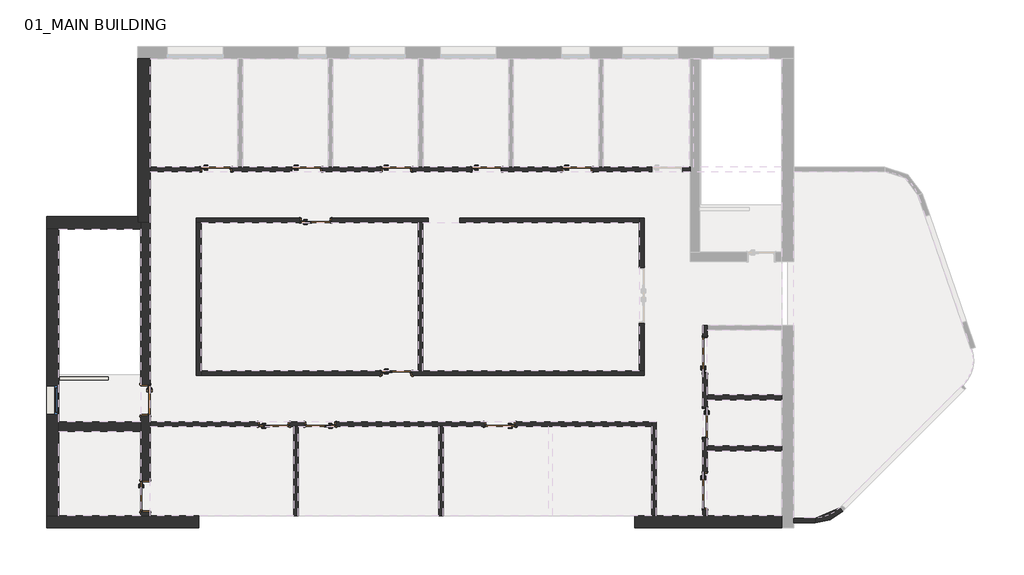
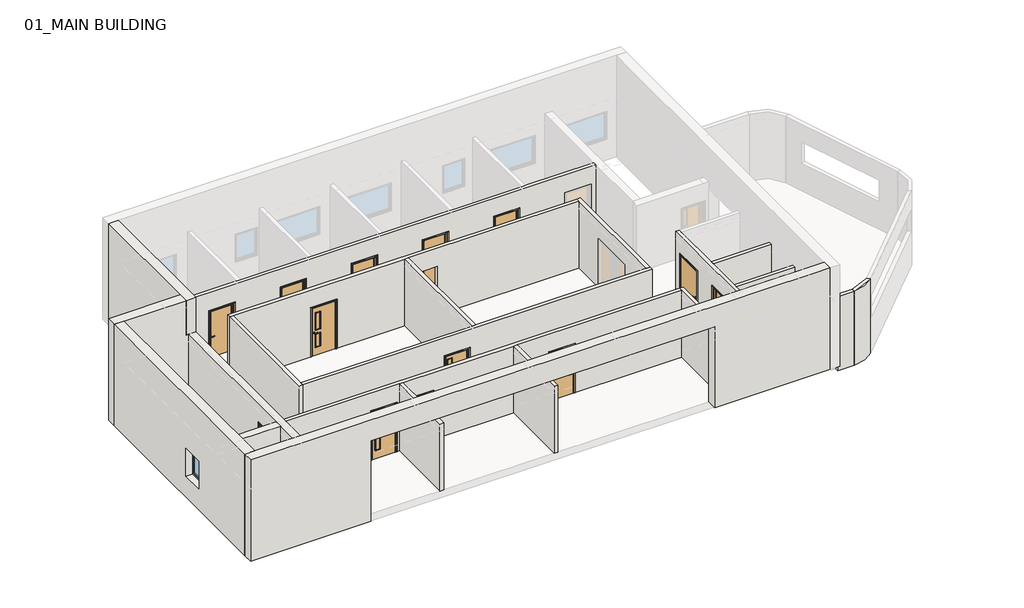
# One storey, part 1 of 2: 22 walls, 15 doors, 1 window.
"""IFC4 building model written with IfcOpenShell, lengths in millimetres."""

from ifc_helpers import new_model, si_unit, point, frame, frame_2d, origin, place, context, project, spatial, polyline, circle_curve, trimmed, segment, composite_curve, outline, extrude, faceted_brep, transform, mapped, element, save
from components import doors_intsgl_1_1010x2110mm_12a6edaf, doors_intsgl_1_1010x2110mm_5517da8e, doors_intsgl_1_1010x2110mm_5eebe40c, doors_intsgl_1_1200x2110mm_e831e5cc, doors_intsgl_1_1200x2110mm_07b1b6db, doors_intsgl_3_1010x2110mm_4cc0f6b2, doors_intsgl_3_1010x2110mm_0dcaffd3, windows_concept_plain_sgl_910x1210mm_ef0b7ad2

model = new_model("IFC4")

# Units and contexts
model_context = context("Model", 3, world=origin())
ifc_project = project(units=[si_unit("LENGTHUNIT", "METRE", prefix="MILLI")], contexts=[model_context])

# Site, building, storey
site = spatial("IfcSite", under=ifc_project)
building = spatial("IfcBuilding", under=site)
storey = spatial("IfcBuildingStorey", under=building, Name="01_MAIN BUILDING", Elevation=4500.0)

# Doors
placement = place(None, origin())
doors_intsgl_1_1010x2110mm_shape = doors_intsgl_1_1010x2110mm_12a6edaf(model_context)
element("IfcDoor", 1, ObjectType="Doors_IntSgl_1 : 1010x2110mm", at=placement, inside=storey, context=model_context, shape_type="MappedRepresentation", body=[
    mapped(doors_intsgl_1_1010x2110mm_shape, transform((427458.8921169, -385124.0026386, 4500.0), x_axis=(1.0, 0.0, 0.0), y_axis=(0.0, 1.0, 0.0), z_axis=(0.0, 0.0, 1.0))),
])
element("IfcDoor", 2, ObjectType="Doors_IntSgl_1 : 1010x2110mm", at=placement, inside=storey, context=model_context, shape_type="MappedRepresentation", body=[
    mapped(doors_intsgl_1_1010x2110mm_shape, transform((430375.4635455, -385124.0026386, 4500.0), x_axis=(1.0, 0.0, 0.0), y_axis=(0.0, 1.0, 0.0), z_axis=(0.0, 0.0, 1.0))),
])
element("IfcDoor", 3, ObjectType="Doors_IntSgl_1 : 1010x2110mm", at=placement, inside=storey, context=model_context, shape_type="MappedRepresentation", body=[
    mapped(doors_intsgl_1_1010x2110mm_shape, transform((433292.034974, -385124.0026386, 4500.0), x_axis=(1.0, 0.0, 0.0), y_axis=(0.0, 1.0, 0.0), z_axis=(0.0, 0.0, 1.0))),
])
element("IfcDoor", 4, ObjectType="Doors_IntSgl_1 : 1010x2110mm", at=placement, inside=storey, context=model_context, shape_type="MappedRepresentation", body=[
    mapped(doors_intsgl_1_1010x2110mm_shape, transform((436208.6064026, -385124.0026386, 4500.0), x_axis=(1.0, 0.0, 0.0), y_axis=(0.0, 1.0, 0.0), z_axis=(0.0, 0.0, 1.0))),
])
element("IfcDoor", 5, ObjectType="Doors_IntSgl_1 : 1010x2110mm", at=placement, inside=storey, context=model_context, shape_type="MappedRepresentation", body=[
    mapped(doors_intsgl_1_1010x2110mm_shape, transform((439125.1778312, -385124.0026386, 4500.0), x_axis=(1.0, 0.0, 0.0), y_axis=(0.0, 1.0, 0.0), z_axis=(0.0, 0.0, 1.0))),
])
element("IfcDoor", 6, ObjectType="Doors_IntSgl_1 : 1010x2110mm", at=placement, inside=storey, context=model_context, shape_type="MappedRepresentation", body=[
    mapped(doors_intsgl_1_1010x2110mm_shape, transform((443263.3206883, -393328.0026386, 4500.0), x_axis=(0.0, -1.0, 0.0), y_axis=(1.0, 0.0, 0.0), z_axis=(0.0, 0.0, 1.0))),
])
element("IfcDoor", 7, ObjectType="Doors_IntSgl_1 : 1010x2110mm", at=placement, inside=storey, context=model_context, shape_type="MappedRepresentation", body=[
    mapped(doors_intsgl_1_1010x2110mm_shape, transform((436633.3206883, -393374.0026386, 4500.0), x_axis=(-1.0, 0.0, 0.0), y_axis=(0.0, -1.0, 0.0), z_axis=(0.0, 0.0, 1.0))),
])
doors_intsgl_1_1010x2110mm_2_shape = doors_intsgl_1_1010x2110mm_5517da8e(model_context)
element("IfcDoor", 8, ObjectType="Doors_IntSgl_1 : 1010x2110mm", at=placement, inside=storey, context=model_context, shape_type="MappedRepresentation", body=[
    mapped(doors_intsgl_1_1010x2110mm_2_shape, transform((425167.3206883, -392594.0026386, 4500.0), x_axis=(0.0, -1.0, 0.0), y_axis=(1.0, 0.0, 0.0), z_axis=(0.0, 0.0, 1.0))),
])
doors_intsgl_1_1010x2110mm_3_shape = doors_intsgl_1_1010x2110mm_5eebe40c(model_context)
element("IfcDoor", 9, ObjectType="Doors_IntSgl_1 : 1010x2110mm", at=placement, inside=storey, context=model_context, shape_type="MappedRepresentation", body=[
    mapped(doors_intsgl_1_1010x2110mm_3_shape, transform((425167.3206883, -395704.0026386, 4500.0), x_axis=(0.0, -1.0, 0.0), y_axis=(1.0, 0.0, 0.0), z_axis=(0.0, 0.0, 1.0))),
])
doors_intsgl_1_1200x2110mm_shape = doors_intsgl_1_1200x2110mm_e831e5cc(model_context)
element("IfcDoor", 10, ObjectType="Doors_IntSgl_1 : 1200x2110mm", at=placement, inside=storey, context=model_context, shape_type="MappedRepresentation", body=[
    mapped(doors_intsgl_1_1200x2110mm_shape, transform((443263.3206883, -391128.0026386, 4500.0), x_axis=(0.0, 1.0, 0.0), y_axis=(-1.0, 0.0, 0.0), z_axis=(0.0, 0.0, 1.0))),
])
doors_intsgl_1_1200x2110mm_2_shape = doors_intsgl_1_1200x2110mm_07b1b6db(model_context)
element("IfcDoor", 11, ObjectType="Doors_IntSgl_1 : 1200x2110mm", at=placement, inside=storey, context=model_context, shape_type="MappedRepresentation", body=[
    mapped(doors_intsgl_1_1200x2110mm_2_shape, transform((443263.3206883, -395528.0026386, 4500.0), x_axis=(0.0, -1.0, 0.0), y_axis=(1.0, 0.0, 0.0), z_axis=(0.0, 0.0, 1.0))),
])
doors_intsgl_3_1010x2110mm_shape = doors_intsgl_3_1010x2110mm_4cc0f6b2(model_context)
element("IfcDoor", 12, ObjectType="Doors_IntSgl_3 : 1010x2110mm", at=placement, inside=storey, context=model_context, shape_type="MappedRepresentation", body=[
    mapped(doors_intsgl_3_1010x2110mm_shape, transform((430824.5429107, -393374.0026386, 4500.0), x_axis=(-1.0, 0.0, 0.0), y_axis=(0.0, -1.0, 0.0), z_axis=(0.0, 0.0, 1.0))),
])
doors_intsgl_3_1010x2110mm_2_shape = doors_intsgl_3_1010x2110mm_0dcaffd3(model_context)
element("IfcDoor", 13, ObjectType="Doors_IntSgl_3 : 1010x2110mm", at=placement, inside=storey, context=model_context, shape_type="MappedRepresentation", body=[
    mapped(doors_intsgl_3_1010x2110mm_2_shape, transform((429323.3206883, -393374.0026386, 4500.0), x_axis=(1.0, 0.0, 0.0), y_axis=(0.0, 1.0, 0.0), z_axis=(0.0, 0.0, 1.0))),
])
element("IfcDoor", 14, ObjectType="Doors_IntSgl_3 : 1010x2110mm", at=placement, inside=storey, context=model_context, shape_type="MappedRepresentation", body=[
    mapped(doors_intsgl_3_1010x2110mm_2_shape, transform((430677.3206883, -386774.0026386, 4500.0), x_axis=(1.0, 0.0, 0.0), y_axis=(0.0, 1.0, 0.0), z_axis=(0.0, 0.0, 1.0))),
])
element("IfcDoor", 15, ObjectType="Doors_IntSgl_3 : 1010x2110mm", at=placement, inside=storey, context=model_context, shape_type="MappedRepresentation", body=[
    mapped(doors_intsgl_3_1010x2110mm_shape, transform((433287.3206883, -391724.0026386, 4500.0), x_axis=(1.0, 0.0, 0.0), y_axis=(0.0, 1.0, 0.0), z_axis=(0.0, 0.0, 1.0))),
])

# Walls
element("IfcWall", 16, ObjectType="Wall_Exterior_WSUK", at=placement, inside=storey, context=model_context, shape_type="Brep", body=[
    faceted_brep([(421974.3206883, -396328.0026386, 8900.0), (422376.3206883, -396328.0026386, 8900.0), (445738.3206883, -396328.0026386, 8900.0), (445738.3206883, -396328.0026386, 4500.0), (443338.3206883, -396328.0026386, 4500.0), (443188.3206883, -396328.0026386, 4500.0), (441688.3206883, -396328.0026386, 4500.0), (441538.3206883, -396328.0026386, 4500.0), (440997.3206883, -396328.0026386, 4500.0), (440997.3206883, -396328.0026386, 8000.0), (426897.3206883, -396328.0026386, 8000.0), (426897.3206883, -396328.0026386, 4500.0), (425322.3206883, -396328.0026386, 4500.0), (425012.3206883, -396328.0026386, 4500.0), (422376.3206883, -396328.0026386, 4500.0), (421974.3206883, -396328.0026386, 4500.0), (445738.3206883, -396730.0026386, 8900.0), (421974.3206883, -396730.0026386, 8900.0), (421974.3206883, -396730.0026386, 4500.0), (426897.3206883, -396730.0026386, 4500.0), (426897.3206883, -396730.0026386, 8000.0), (440997.3206883, -396730.0026386, 8000.0), (440997.3206883, -396730.0026386, 4500.0), (445738.3206883, -396730.0026386, 4500.0)], [[[0, 1, 2, 3, 4, 5, 6, 7, 8, 9, 10, 11, 12, 13, 14, 15]], [[16, 17, 18, 19, 20, 21, 22, 23]], [[3, 23, 22, 8, 7, 6, 5, 4]], [[18, 15, 14, 13, 12, 11, 19]], [[2, 1, 0, 17, 16]], [[2, 16, 23, 3]], [[0, 15, 18, 17]], [[21, 9, 8, 22]], [[9, 21, 20, 10]], [[10, 20, 19, 11]]]),
])
element("IfcWall", 17, ObjectType="Wall_Exterior_WSUK", at=placement, inside=storey, context=model_context, shape_type="Brep", body=[
    faceted_brep([(424920.3206883, -381550.0026386, 8900.0), (424920.3206883, -381550.0026386, 4500.0), (424920.3206883, -386647.0026386, 4500.0), (424920.3206883, -386848.0026386, 4500.0), (424920.3206883, -386848.0026386, 7400.0), (424920.3206883, -387049.0026386, 7400.0), (424920.3206883, -387049.0026386, 8900.0), (424920.3206883, -386647.0026386, 8900.0), (425322.3206883, -381550.0026386, 4500.0), (425322.3206883, -381550.0026386, 8900.0), (425322.3206883, -387049.0026386, 8900.0), (425322.3206883, -387049.0026386, 7400.0), (425322.3206883, -386848.0026386, 7400.0), (425322.3206883, -386848.0026386, 4500.0), (425322.3206883, -385199.0026386, 4500.0), (425322.3206883, -385049.0026386, 4500.0), (425012.3206883, -381550.0026386, 4500.0), (425012.3206883, -386848.0026386, 4500.0), (425012.3206883, -386848.0026386, 7400.0), (425012.3206883, -387049.0026386, 7400.0)], [[[0, 1, 2, 3, 4, 5, 6, 7]], [[8, 9, 10, 11, 12, 13, 14, 15]], [[3, 2, 1, 16, 8, 15, 14, 13, 17]], [[0, 7, 6, 10, 9]], [[4, 3, 17, 13, 12, 18]], [[11, 19, 5, 4, 18, 12]], [[6, 5, 19, 11, 10]], [[0, 9, 8, 16, 1]]]),
])
element("IfcWall", 18, ObjectType="Wall_Exterior_WSUK", at=placement, inside=storey, context=model_context, shape_type="Brep", body=[
    faceted_brep([(424920.3206883, -386647.0026386, 4500.0), (421974.3206883, -386647.0026386, 4500.0), (421974.3206883, -386647.0026386, 8900.0), (424920.3206883, -386647.0026386, 8900.0), (424920.3206883, -386647.0026386, 7400.0), (425012.3206883, -387049.0026386, 4500.0), (425012.3206883, -387049.0026386, 7400.0), (424920.3206883, -387049.0026386, 7400.0), (424920.3206883, -387049.0026386, 8900.0), (422376.3206883, -387049.0026386, 8900.0), (421974.3206883, -387049.0026386, 8900.0), (421974.3206883, -387049.0026386, 4500.0), (422376.3206883, -387049.0026386, 4500.0), (424920.3206883, -386848.0026386, 4500.0), (425012.3206883, -386848.0026386, 4500.0), (424920.3206883, -386848.0026386, 7400.0), (425012.3206883, -386848.0026386, 7400.0)], [[[0, 1, 2, 3, 4]], [[5, 6, 7, 8, 9, 10, 11, 12]], [[1, 0, 13, 14, 5, 12, 11]], [[3, 2, 10, 9, 8]], [[2, 1, 11, 10]], [[15, 7, 6, 16]], [[0, 4, 15, 13]], [[15, 16, 14, 13]], [[16, 6, 5, 14]], [[4, 3, 8, 7, 15]]]),
])
element("IfcWall", 19, ObjectType="Wall_Exterior_WSUK", at=placement, inside=storey, context=model_context, shape_type="Brep", body=[
    faceted_brep([(421974.3206883, -387049.0026386, 4500.0), (421974.3206883, -396328.0026386, 4500.0), (421974.3206883, -396328.0026386, 8900.0), (421974.3206883, -387049.0026386, 8900.0), (421974.3206883, -392139.0026386, 6610.0), (421974.3206883, -393049.0026386, 6610.0), (421974.3206883, -393049.0026386, 5400.0), (421974.3206883, -392139.0026386, 5400.0), (422376.3206883, -387049.0026386, 4500.0), (422376.3206883, -387049.0026386, 8900.0), (422376.3206883, -396328.0026386, 8900.0), (422376.3206883, -396328.0026386, 4500.0), (422376.3206883, -393609.0026386, 4500.0), (422376.3206883, -393299.0026386, 4500.0), (422376.3206883, -392139.0026386, 6610.0), (422376.3206883, -392139.0026386, 5400.0), (422376.3206883, -393049.0026386, 5400.0), (422376.3206883, -393049.0026386, 6610.0)], [[[0, 1, 2, 3], [4, 5, 6, 7]], [[8, 9, 10, 11, 12, 13], [14, 15, 16, 17]], [[1, 0, 8, 13, 12, 11]], [[3, 2, 10, 9]], [[0, 3, 9, 8]], [[15, 14, 4, 7]], [[16, 15, 7, 6]], [[17, 16, 6, 5]], [[14, 17, 5, 4]], [[2, 1, 11, 10]]]),
])
element("IfcWall", 20, ObjectType="Wall_Interior_WSUK", at=placement, inside=storey, context=model_context, shape_type="Brep", body=[
    faceted_brep([(442792.3206883, -385199.0026386, 7400.0), (425322.3206883, -385199.0026386, 7400.0), (425322.3206883, -385199.0026386, 4500.0), (426953.8921169, -385199.0026386, 4500.0), (426953.8921169, -385199.0026386, 6610.0), (427963.8921169, -385199.0026386, 6610.0), (427963.8921169, -385199.0026386, 4500.0), (429870.4635455, -385199.0026386, 4500.0), (429870.4635455, -385199.0026386, 6610.0), (430880.4635455, -385199.0026386, 6610.0), (430880.4635455, -385199.0026386, 4500.0), (432787.034974, -385199.0026386, 4500.0), (432787.034974, -385199.0026386, 6610.0), (433797.034974, -385199.0026386, 6610.0), (433797.034974, -385199.0026386, 4500.0), (435703.6064026, -385199.0026386, 4500.0), (435703.6064026, -385199.0026386, 6610.0), (436713.6064026, -385199.0026386, 6610.0), (436713.6064026, -385199.0026386, 4500.0), (438620.1778312, -385199.0026386, 4500.0), (438620.1778312, -385199.0026386, 6610.0), (439630.1778312, -385199.0026386, 6610.0), (439630.1778312, -385199.0026386, 4500.0), (441536.7492598, -385199.0026386, 4500.0), (441536.7492598, -385199.0026386, 6610.0), (442546.7492598, -385199.0026386, 6610.0), (442546.7492598, -385199.0026386, 4500.0), (442792.3206883, -385199.0026386, 4500.0), (425322.3206883, -385049.0026386, 7400.0), (428163.8921169, -385049.0026386, 7400.0), (428313.8921169, -385049.0026386, 7400.0), (431080.4635455, -385049.0026386, 7400.0), (431230.4635455, -385049.0026386, 7400.0), (433997.034974, -385049.0026386, 7400.0), (434147.034974, -385049.0026386, 7400.0), (436913.6064026, -385049.0026386, 7400.0), (437063.6064026, -385049.0026386, 7400.0), (439830.1778312, -385049.0026386, 7400.0), (439980.1778312, -385049.0026386, 7400.0), (442792.3206883, -385049.0026386, 7400.0), (442792.3206883, -385049.0026386, 4500.0), (442546.7492598, -385049.0026386, 4500.0), (442546.7492598, -385049.0026386, 6610.0), (441536.7492598, -385049.0026386, 6610.0), (441536.7492598, -385049.0026386, 4500.0), (439980.1778312, -385049.0026386, 4500.0), (439830.1778312, -385049.0026386, 4500.0), (439630.1778312, -385049.0026386, 4500.0), (439630.1778312, -385049.0026386, 6610.0), (438620.1778312, -385049.0026386, 6610.0), (438620.1778312, -385049.0026386, 4500.0), (437063.6064026, -385049.0026386, 4500.0), (436913.6064026, -385049.0026386, 4500.0), (436713.6064026, -385049.0026386, 4500.0), (436713.6064026, -385049.0026386, 6610.0), (435703.6064026, -385049.0026386, 6610.0), (435703.6064026, -385049.0026386, 4500.0), (434147.034974, -385049.0026386, 4500.0), (433997.034974, -385049.0026386, 4500.0), (433797.034974, -385049.0026386, 4500.0), (433797.034974, -385049.0026386, 6610.0), (432787.034974, -385049.0026386, 6610.0), (432787.034974, -385049.0026386, 4500.0), (431230.4635455, -385049.0026386, 4500.0), (431080.4635455, -385049.0026386, 4500.0), (430880.4635455, -385049.0026386, 4500.0), (430880.4635455, -385049.0026386, 6610.0), (429870.4635455, -385049.0026386, 6610.0), (429870.4635455, -385049.0026386, 4500.0), (428313.8921169, -385049.0026386, 4500.0), (428163.8921169, -385049.0026386, 4500.0), (427963.8921169, -385049.0026386, 4500.0), (427963.8921169, -385049.0026386, 6610.0), (426953.8921169, -385049.0026386, 6610.0), (426953.8921169, -385049.0026386, 4500.0), (425322.3206883, -385049.0026386, 4500.0)], [[[0, 1, 2, 3, 4, 5, 6, 7, 8, 9, 10, 11, 12, 13, 14, 15, 16, 17, 18, 19, 20, 21, 22, 23, 24, 25, 26, 27]], [[28, 29, 30, 31, 32, 33, 34, 35, 36, 37, 38, 39, 40, 41, 42, 43, 44, 45, 46, 47, 48, 49, 50, 51, 52, 53, 54, 55, 56, 57, 58, 59, 60, 61, 62, 63, 64, 65, 66, 67, 68, 69, 70, 71, 72, 73, 74, 75]], [[3, 2, 75, 74]], [[6, 71, 70, 69, 68, 7]], [[10, 65, 64, 63, 62, 11]], [[14, 59, 58, 57, 56, 15]], [[18, 53, 52, 51, 50, 19]], [[22, 47, 46, 45, 44, 23]], [[40, 27, 26, 41]], [[1, 0, 39, 38, 37, 36, 35, 34, 33, 32, 31, 30, 29, 28]], [[5, 72, 71, 6]], [[72, 5, 4, 73]], [[73, 4, 3, 74]], [[9, 66, 65, 10]], [[66, 9, 8, 67]], [[67, 8, 7, 68]], [[13, 60, 59, 14]], [[60, 13, 12, 61]], [[61, 12, 11, 62]], [[17, 54, 53, 18]], [[54, 17, 16, 55]], [[55, 16, 15, 56]], [[21, 48, 47, 22]], [[48, 21, 20, 49]], [[49, 20, 19, 50]], [[2, 1, 28, 75]], [[25, 42, 41, 26]], [[42, 25, 24, 43]], [[43, 24, 23, 44]], [[0, 27, 40, 39]]]),
])
element("IfcWall", 21, ObjectType="Wall_Interior_WSUK", at=placement, inside=storey, context=model_context, shape_type="Brep", body=[
    faceted_brep([(443188.3206883, -396328.0026386, 7400.0), (443188.3206883, -390178.0026386, 7400.0), (443188.3206883, -390178.0026386, 4500.0), (443188.3206883, -390528.0026386, 4500.0), (443188.3206883, -390528.0026386, 6610.0), (443188.3206883, -391728.0026386, 6610.0), (443188.3206883, -391728.0026386, 4500.0), (443188.3206883, -392823.0026386, 4500.0), (443188.3206883, -392823.0026386, 6610.0), (443188.3206883, -393833.0026386, 6610.0), (443188.3206883, -393833.0026386, 4500.0), (443188.3206883, -394928.0026386, 4500.0), (443188.3206883, -394928.0026386, 6610.0), (443188.3206883, -396128.0026386, 6610.0), (443188.3206883, -396128.0026386, 4500.0), (443188.3206883, -396328.0026386, 4500.0), (443338.3206883, -390178.0026386, 7400.0), (443338.3206883, -390328.0026386, 7400.0), (443338.3206883, -392428.0026386, 7400.0), (443338.3206883, -392578.0026386, 7400.0), (443338.3206883, -394078.0026386, 7400.0), (443338.3206883, -394228.0026386, 7400.0), (443338.3206883, -396328.0026386, 7400.0), (443338.3206883, -396328.0026386, 4500.0), (443338.3206883, -396128.0026386, 4500.0), (443338.3206883, -396128.0026386, 6610.0), (443338.3206883, -394928.0026386, 6610.0), (443338.3206883, -394928.0026386, 4500.0), (443338.3206883, -394228.0026386, 4500.0), (443338.3206883, -394078.0026386, 4500.0), (443338.3206883, -393833.0026386, 4500.0), (443338.3206883, -393833.0026386, 6610.0), (443338.3206883, -392823.0026386, 6610.0), (443338.3206883, -392823.0026386, 4500.0), (443338.3206883, -392578.0026386, 4500.0), (443338.3206883, -392428.0026386, 4500.0), (443338.3206883, -391728.0026386, 4500.0), (443338.3206883, -391728.0026386, 6610.0), (443338.3206883, -390528.0026386, 6610.0), (443338.3206883, -390528.0026386, 4500.0), (443338.3206883, -390328.0026386, 4500.0), (443338.3206883, -390178.0026386, 4500.0)], [[[0, 1, 2, 3, 4, 5, 6, 7, 8, 9, 10, 11, 12, 13, 14, 15]], [[16, 17, 18, 19, 20, 21, 22, 23, 24, 25, 26, 27, 28, 29, 30, 31, 32, 33, 34, 35, 36, 37, 38, 39, 40, 41]], [[2, 41, 40, 39, 3]], [[23, 15, 14, 24]], [[6, 36, 35, 34, 33, 7]], [[10, 30, 29, 28, 27, 11]], [[1, 0, 22, 21, 20, 19, 18, 17, 16]], [[2, 1, 16, 41]], [[0, 15, 23, 22]], [[38, 4, 3, 39]], [[4, 38, 37, 5]], [[5, 37, 36, 6]], [[9, 31, 30, 10]], [[31, 9, 8, 32]], [[32, 8, 7, 33]], [[13, 25, 24, 14]], [[25, 13, 12, 26]], [[26, 12, 11, 27]]]),
])
element("IfcWall", 22, ObjectType="Wall_Interior_WSUK", at=placement, inside=storey, context=model_context, shape_type="SweptSolid", body=[
    extrude(outline(polyline([(445738.3206883, -394228.0026386), (443338.3206883, -394228.0026386), (443338.3206883, -394078.0026386), (445738.3206883, -394078.0026386), (445738.3206883, -394228.0026386)])), frame((0.0, 0.0, 4500.0), z_axis=(0.0, 0.0, 1.0), x_axis=(1.0, 0.0, 0.0)), (0.0, 0.0, 1.0), 2900.0),
])
element("IfcWall", 23, ObjectType="Wall_Interior_WSUK", at=placement, inside=storey, context=model_context, shape_type="SweptSolid", body=[
    extrude(outline(polyline([(445738.3206883, -392578.0026386), (443338.3206883, -392578.0026386), (443338.3206883, -392428.0026386), (445738.3206883, -392428.0026386), (445738.3206883, -392578.0026386)])), frame((0.0, 0.0, 4500.0), z_axis=(0.0, 0.0, 1.0), x_axis=(1.0, 0.0, 0.0)), (0.0, 0.0, 1.0), 2900.0),
])
element("IfcWall", 24, ObjectType="Wall_Interior_WSUK", at=placement, inside=storey, context=model_context, shape_type="Brep", body=[
    faceted_brep([(441538.3206883, -393449.0026386, 7400.0), (434802.8762438, -393449.0026386, 7400.0), (434652.8762438, -393449.0026386, 7400.0), (430119.5429107, -393449.0026386, 7400.0), (429969.5429107, -393449.0026386, 7400.0), (425322.3206883, -393449.0026386, 7400.0), (425322.3206883, -393449.0026386, 4500.0), (428818.3206883, -393449.0026386, 4500.0), (428818.3206883, -393449.0026386, 6610.0), (429828.3206883, -393449.0026386, 6610.0), (429828.3206883, -393449.0026386, 4500.0), (429969.5429107, -393449.0026386, 4500.0), (430119.5429107, -393449.0026386, 4500.0), (430319.5429107, -393449.0026386, 4500.0), (430319.5429107, -393449.0026386, 6610.0), (431329.5429107, -393449.0026386, 6610.0), (431329.5429107, -393449.0026386, 4500.0), (434652.8762438, -393449.0026386, 4500.0), (434802.8762438, -393449.0026386, 4500.0), (436128.3206883, -393449.0026386, 4500.0), (436128.3206883, -393449.0026386, 6610.0), (437138.3206883, -393449.0026386, 6610.0), (437138.3206883, -393449.0026386, 4500.0), (441538.3206883, -393449.0026386, 4500.0), (425322.3206883, -393299.0026386, 7400.0), (441538.3206883, -393299.0026386, 7400.0), (441538.3206883, -393299.0026386, 4500.0), (437138.3206883, -393299.0026386, 4500.0), (437138.3206883, -393299.0026386, 6610.0), (436128.3206883, -393299.0026386, 6610.0), (436128.3206883, -393299.0026386, 4500.0), (431329.5429107, -393299.0026386, 4500.0), (431329.5429107, -393299.0026386, 6610.0), (430319.5429107, -393299.0026386, 6610.0), (430319.5429107, -393299.0026386, 4500.0), (429828.3206883, -393299.0026386, 4500.0), (429828.3206883, -393299.0026386, 6610.0), (428818.3206883, -393299.0026386, 6610.0), (428818.3206883, -393299.0026386, 4500.0), (425322.3206883, -393299.0026386, 4500.0)], [[[0, 1, 2, 3, 4, 5, 6, 7, 8, 9, 10, 11, 12, 13, 14, 15, 16, 17, 18, 19, 20, 21, 22, 23]], [[24, 25, 26, 27, 28, 29, 30, 31, 32, 33, 34, 35, 36, 37, 38, 39]], [[26, 23, 22, 27]], [[30, 19, 18, 17, 16, 31]], [[34, 13, 12, 11, 10, 35]], [[6, 39, 38, 7]], [[5, 4, 3, 2, 1, 0, 25, 24]], [[0, 23, 26, 25]], [[29, 20, 19, 30]], [[20, 29, 28, 21]], [[21, 28, 27, 22]], [[33, 14, 13, 34]], [[14, 33, 32, 15]], [[15, 32, 31, 16]], [[9, 36, 35, 10]], [[36, 9, 8, 37]], [[37, 8, 7, 38]], [[6, 5, 24, 39]]]),
])
element("IfcWall", 25, ObjectType="Wall_Interior_WSUK", at=placement, inside=storey, context=model_context, shape_type="Brep", body=[
    faceted_brep([(441538.3206883, -393299.0026386, 4500.0), (441538.3206883, -393449.0026386, 4500.0), (441538.3206883, -396328.0026386, 4500.0), (441538.3206883, -396328.0026386, 7400.0), (441538.3206883, -393449.0026386, 7400.0), (441538.3206883, -393299.0026386, 7400.0), (441688.3206883, -393299.0026386, 4500.0), (441688.3206883, -393299.0026386, 7400.0), (441688.3206883, -396328.0026386, 7400.0), (441688.3206883, -396328.0026386, 4500.0)], [[[0, 1, 2, 3, 4, 5]], [[6, 7, 8, 9]], [[2, 1, 0, 6, 9]], [[5, 4, 3, 8, 7]], [[0, 5, 7, 6]], [[3, 2, 9, 8]]]),
])
element("IfcWall", 26, ObjectType="Wall_Interior_WSUK", at=placement, inside=storey, context=model_context, shape_type="SweptSolid", body=[
    extrude(outline(polyline([(429969.5429107, -396328.0026386), (429969.5429107, -393449.0026386), (430119.5429107, -393449.0026386), (430119.5429107, -396328.0026386), (429969.5429107, -396328.0026386)])), frame((0.0, 0.0, 4500.0), z_axis=(0.0, 0.0, 1.0), x_axis=(1.0, 0.0, 0.0)), (0.0, 0.0, 1.0), 2900.0),
])
element("IfcWall", 27, ObjectType="Wall_Interior_WSUK", at=placement, inside=storey, context=model_context, shape_type="SweptSolid", body=[
    extrude(outline(polyline([(434652.8762438, -396328.0026386), (434652.8762438, -393449.0026386), (434802.8762438, -393449.0026386), (434802.8762438, -396328.0026386), (434652.8762438, -396328.0026386)])), frame((0.0, 0.0, 4500.0), z_axis=(0.0, 0.0, 1.0), x_axis=(1.0, 0.0, 0.0)), (0.0, 0.0, 1.0), 2900.0),
])
element("IfcWall", 28, ObjectType="Wall_Interior_WSUK", at=placement, inside=storey, context=model_context, shape_type="Brep", body=[
    faceted_brep([(441142.3206883, -386849.0026386, 7400.0), (434142.3206883, -386849.0026386, 7400.0), (433992.3206883, -386849.0026386, 7400.0), (426972.3206883, -386849.0026386, 7400.0), (426822.3206883, -386849.0026386, 7400.0), (426822.3206883, -386849.0026386, 4500.0), (426972.3206883, -386849.0026386, 4500.0), (430172.3206883, -386849.0026386, 4500.0), (430172.3206883, -386849.0026386, 6610.0), (431182.3206883, -386849.0026386, 6610.0), (431182.3206883, -386849.0026386, 4500.0), (433992.3206883, -386849.0026386, 4500.0), (434142.3206883, -386849.0026386, 4500.0), (434322.3206883, -386849.0026386, 4500.0), (434322.3206883, -386849.0026386, 6610.0), (435332.3206883, -386849.0026386, 6610.0), (435332.3206883, -386849.0026386, 4500.0), (441142.3206883, -386849.0026386, 4500.0), (426822.3206883, -386699.0026386, 7400.0), (441142.3206883, -386699.0026386, 7400.0), (441142.3206883, -386699.0026386, 4500.0), (435332.3206883, -386699.0026386, 4500.0), (435332.3206883, -386699.0026386, 6610.0), (434322.3206883, -386699.0026386, 6610.0), (434322.3206883, -386699.0026386, 4500.0), (431182.3206883, -386699.0026386, 4500.0), (431182.3206883, -386699.0026386, 6610.0), (430172.3206883, -386699.0026386, 6610.0), (430172.3206883, -386699.0026386, 4500.0), (426822.3206883, -386699.0026386, 4500.0)], [[[0, 1, 2, 3, 4, 5, 6, 7, 8, 9, 10, 11, 12, 13, 14, 15, 16, 17]], [[18, 19, 20, 21, 22, 23, 24, 25, 26, 27, 28, 29]], [[5, 29, 28, 7, 6]], [[20, 17, 16, 21]], [[10, 25, 24, 13, 12, 11]], [[4, 3, 2, 1, 0, 19, 18]], [[5, 4, 18, 29]], [[0, 17, 20, 19]], [[10, 9, 26, 25]], [[9, 8, 27, 26]], [[8, 7, 28, 27]], [[23, 14, 13, 24]], [[14, 23, 22, 15]], [[15, 22, 21, 16]]]),
])
element("IfcWall", 29, ObjectType="Wall_Interior_WSUK", at=placement, inside=storey, context=model_context, shape_type="Brep", body=[
    faceted_brep([(426972.3206883, -391799.0026386, 4500.0), (426972.3206883, -391649.0026386, 4500.0), (426972.3206883, -386849.0026386, 4500.0), (426972.3206883, -386849.0026386, 7400.0), (426972.3206883, -391649.0026386, 7400.0), (426972.3206883, -391799.0026386, 7400.0), (426822.3206883, -391799.0026386, 4500.0), (426822.3206883, -391799.0026386, 7400.0), (426822.3206883, -386849.0026386, 7400.0), (426822.3206883, -386849.0026386, 4500.0)], [[[0, 1, 2, 3, 4, 5]], [[6, 7, 8, 9]], [[2, 1, 0, 6, 9]], [[5, 4, 3, 8, 7]], [[3, 2, 9, 8]], [[0, 5, 7, 6]]]),
])
element("IfcWall", 30, ObjectType="Wall_Interior_WSUK", at=placement, inside=storey, context=model_context, shape_type="Brep", body=[
    faceted_brep([(441142.3206883, -391649.0026386, 7400.0), (441142.3206883, -386849.0026386, 7400.0), (441142.3206883, -386699.0026386, 7400.0), (441142.3206883, -386699.0026386, 4500.0), (441142.3206883, -386849.0026386, 4500.0), (441142.3206883, -388294.0026386, 4500.0), (441142.3206883, -388294.0026386, 6610.0), (441142.3206883, -390104.0026386, 6610.0), (441142.3206883, -390104.0026386, 4500.0), (441142.3206883, -391649.0026386, 4500.0), (441292.3206883, -386699.0026386, 7400.0), (441292.3206883, -391649.0026386, 7400.0), (441292.3206883, -391649.0026386, 4500.0), (441292.3206883, -390104.0026386, 4500.0), (441292.3206883, -390104.0026386, 6610.0), (441292.3206883, -388294.0026386, 6610.0), (441292.3206883, -388294.0026386, 4500.0), (441292.3206883, -386699.0026386, 4500.0)], [[[0, 1, 2, 3, 4, 5, 6, 7, 8, 9]], [[10, 11, 12, 13, 14, 15, 16, 17]], [[3, 17, 16, 5, 4]], [[12, 9, 8, 13]], [[2, 1, 0, 11, 10]], [[3, 2, 10, 17]], [[0, 9, 12, 11]], [[7, 14, 13, 8]], [[14, 7, 6, 15]], [[15, 6, 5, 16]]]),
])
element("IfcWall", 31, ObjectType="Wall_Interior_WSUK", at=placement, inside=storey, context=model_context, shape_type="SweptSolid", body=[
    extrude(outline(polyline([(433992.3206883, -391649.0026386), (433992.3206883, -386849.0026386), (434142.3206883, -386849.0026386), (434142.3206883, -391649.0026386), (433992.3206883, -391649.0026386)])), frame((0.0, 0.0, 4500.0), z_axis=(0.0, 0.0, 1.0), x_axis=(1.0, 0.0, 0.0)), (0.0, 0.0, 1.0), 2900.0),
])
element("IfcWall", 32, ObjectType="Wall_Interior_WSUK", at=placement, inside=storey, context=model_context, shape_type="Brep", body=[
    faceted_brep([(441292.3206883, -391799.0026386, 7400.0), (426972.3206883, -391799.0026386, 7400.0), (426972.3206883, -391799.0026386, 4500.0), (432782.3206883, -391799.0026386, 4500.0), (432782.3206883, -391799.0026386, 6610.0), (433792.3206883, -391799.0026386, 6610.0), (433792.3206883, -391799.0026386, 4500.0), (441292.3206883, -391799.0026386, 4500.0), (426972.3206883, -391649.0026386, 7400.0), (433992.3206883, -391649.0026386, 7400.0), (434142.3206883, -391649.0026386, 7400.0), (441142.3206883, -391649.0026386, 7400.0), (441292.3206883, -391649.0026386, 7400.0), (441292.3206883, -391649.0026386, 4500.0), (441142.3206883, -391649.0026386, 4500.0), (434142.3206883, -391649.0026386, 4500.0), (433992.3206883, -391649.0026386, 4500.0), (433792.3206883, -391649.0026386, 4500.0), (433792.3206883, -391649.0026386, 6610.0), (432782.3206883, -391649.0026386, 6610.0), (432782.3206883, -391649.0026386, 4500.0), (426972.3206883, -391649.0026386, 4500.0)], [[[0, 1, 2, 3, 4, 5, 6, 7]], [[8, 9, 10, 11, 12, 13, 14, 15, 16, 17, 18, 19, 20, 21]], [[2, 21, 20, 3]], [[13, 7, 6, 17, 16, 15, 14]], [[1, 0, 12, 11, 10, 9, 8]], [[2, 1, 8, 21]], [[0, 7, 13, 12]], [[5, 18, 17, 6]], [[18, 5, 4, 19]], [[19, 4, 3, 20]]]),
])
element("IfcWall", 33, ObjectType="Wall_Exterior_WSUK 2hr", at=placement, inside=storey, context=model_context, shape_type="Brep", body=[
    faceted_brep([(425012.3206883, -396328.0026386, 7400.0), (425012.3206883, -393609.0026386, 7400.0), (425012.3206883, -393299.0026386, 7400.0), (425012.3206883, -387049.0026386, 7400.0), (425012.3206883, -386848.0026386, 7400.0), (425012.3206883, -386848.0026386, 4500.0), (425012.3206883, -387049.0026386, 4500.0), (425012.3206883, -392089.0026386, 4500.0), (425012.3206883, -392089.0026386, 6610.0), (425012.3206883, -393099.0026386, 6610.0), (425012.3206883, -393099.0026386, 4500.0), (425012.3206883, -393299.0026386, 4500.0), (425012.3206883, -393609.0026386, 4500.0), (425012.3206883, -395199.0026386, 4500.0), (425012.3206883, -395199.0026386, 6610.0), (425012.3206883, -396209.0026386, 6610.0), (425012.3206883, -396209.0026386, 4500.0), (425012.3206883, -396328.0026386, 4500.0), (425322.3206883, -386848.0026386, 7400.0), (425322.3206883, -387049.0026386, 7400.0), (425322.3206883, -393299.0026386, 7400.0), (425322.3206883, -393449.0026386, 7400.0), (425322.3206883, -396328.0026386, 7400.0), (425322.3206883, -396328.0026386, 4500.0), (425322.3206883, -396209.0026386, 4500.0), (425322.3206883, -396209.0026386, 6610.0), (425322.3206883, -395199.0026386, 6610.0), (425322.3206883, -395199.0026386, 4500.0), (425322.3206883, -393449.0026386, 4500.0), (425322.3206883, -393299.0026386, 4500.0), (425322.3206883, -393099.0026386, 4500.0), (425322.3206883, -393099.0026386, 6610.0), (425322.3206883, -392089.0026386, 6610.0), (425322.3206883, -392089.0026386, 4500.0), (425322.3206883, -386848.0026386, 4500.0)], [[[0, 1, 2, 3, 4, 5, 6, 7, 8, 9, 10, 11, 12, 13, 14, 15, 16, 17]], [[18, 19, 20, 21, 22, 23, 24, 25, 26, 27, 28, 29, 30, 31, 32, 33, 34]], [[23, 17, 16, 24]], [[5, 34, 33, 7, 6]], [[10, 30, 29, 28, 27, 13, 12, 11]], [[4, 3, 2, 1, 0, 22, 21, 20, 19, 18]], [[5, 4, 18, 34]], [[0, 17, 23, 22]], [[9, 31, 30, 10]], [[31, 9, 8, 32]], [[32, 8, 7, 33]], [[15, 25, 24, 16]], [[25, 15, 14, 26]], [[26, 14, 13, 27]]]),
])
element("IfcWall", 34, ObjectType="Wall_Exterior_WSUK 2hr", at=placement, inside=storey, context=model_context, shape_type="SweptSolid", body=[
    extrude(outline(polyline([(422376.3206883, -393299.0026386), (425012.3206883, -393299.0026386), (425012.3206883, -393609.0026386), (422376.3206883, -393609.0026386), (422376.3206883, -393299.0026386)])), frame((0.0, 0.0, 4500.0), z_axis=(0.0, 0.0, 1.0), x_axis=(1.0, 0.0, 0.0)), (0.0, 0.0, 1.0), 2900.0),
])
element("IfcWall", 35, ObjectType="Wall_Interior_WSUK", at=placement, inside=storey, context=model_context, shape_type="SweptSolid", body=[
    extrude(outline(polyline([(446140.3206883, -396408.0026386), (446821.3938999, -396408.0026386), (446821.3938999, -396558.0026386), (446140.3206883, -396558.0026386), (446140.3206883, -396408.0026386)])), frame((0.0, 0.0, 4200.0), z_axis=(0.0, 0.0, 1.0), x_axis=(1.0, 0.0, 0.0)), (0.0, 0.0, 1.0), 3200.0),
])
element("IfcWall", 36, ObjectType="Wall_Interior_WSUK", at=placement, inside=storey, context=model_context, shape_type="SweptSolid", body=[
    extrude(outline(composite_curve([segment(polyline([(446821.3938999, -396558.0026386), (446821.3938999, -396408.0026386)]), True, "CONTINUOUS"), segment(trimmed(circle_curve(frame_2d((446821.3938999, -395283.0026386)), 1125.0), [point((446821.3938999, -396408.0026386))], [point((447616.8890287, -396078.4977674))], True, "CARTESIAN"), True, "CONTINUOUS"), segment(polyline([(447616.8890287, -396078.4977674), (447722.9550459, -396184.5637846)]), True, "CONTINUOUS"), segment(trimmed(circle_curve(frame_2d((446821.3938999, -395283.0026386)), 1275.0), [point((447722.9550459, -396184.5637846))], [point((446821.3938999, -396558.0026386))], False, "CARTESIAN"), True, "CONTINUOUS")], self_intersect=False)), frame((0.0, 0.0, 4200.0), z_axis=(0.0, 0.0, 1.0), x_axis=(1.0, 0.0, 0.0)), (0.0, 0.0, 1.0), 3200.0),
])
element("IfcWall", 37, ObjectType="Wall_Interior_Generic", at=placement, inside=storey, context=model_context, shape_type="SweptSolid", body=[
    extrude(outline(polyline([(423962.3206883, -391934.0026386), (422401.3206883, -391934.0026386), (422401.3206883, -391834.0026386), (423962.3206883, -391834.0026386), (423962.3206883, -391934.0026386)])), frame((0.0, 0.0, 4500.0), z_axis=(0.0, 0.0, 1.0), x_axis=(1.0, 0.0, 0.0)), (0.0, 0.0, 1.0), 1200.0),
])

# Window
windows_concept_plain_sgl_910x1210mm_shape = windows_concept_plain_sgl_910x1210mm_ef0b7ad2(model_context)
element("IfcWindow", 38, ObjectType="Windows_Concept_Plain_Sgl : 910x1210mm", at=placement, inside=storey, context=model_context, shape_type="MappedRepresentation", body=[
    mapped(windows_concept_plain_sgl_910x1210mm_shape, transform((422166.8641205, -392594.0026386, 4500.0), x_axis=(0.0, -1.0, 0.0), y_axis=(1.0, 0.0, 0.0), z_axis=(0.0, 0.0, 1.0))),
])

save(model, "model.ifc")
